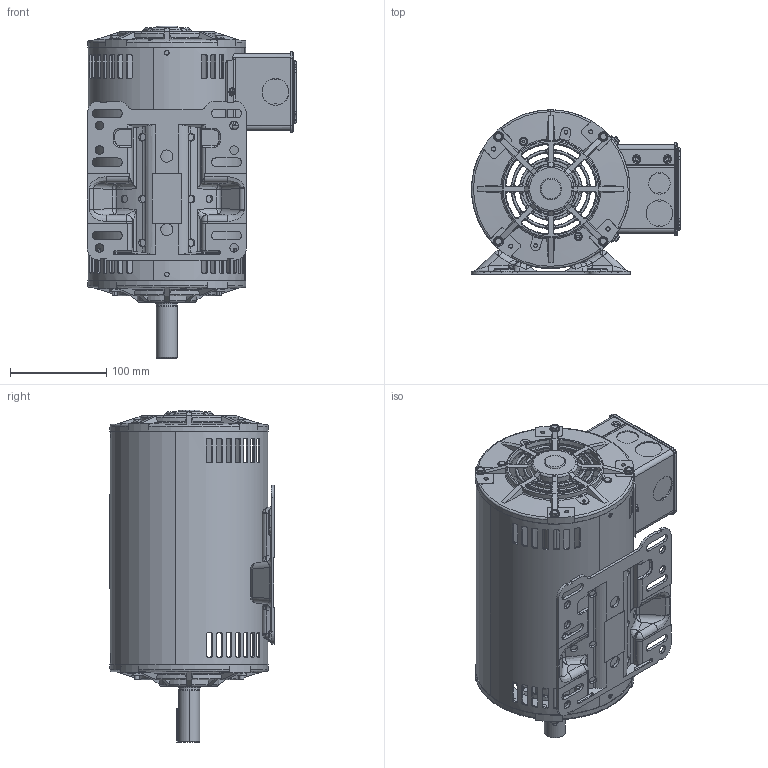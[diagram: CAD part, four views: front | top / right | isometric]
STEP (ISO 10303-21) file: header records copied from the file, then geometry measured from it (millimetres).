
FILE_DESCRIPTION (( 'STEP AP203' ), '1' );
FILE_NAME ('100085-956_RevE.STEP', '2018-01-10T07:22:54', ( '' ), ( '' ), 'SwSTEP 2.0', 'SolidWorks 2015', '' );
FILE_SCHEMA (( 'CONFIG_CONTROL_DESIGN' ));
Products named in the file (1): 100085-956_RevE
Bounding box: 217.4 x 170.59 x 344.66 mm (x, y, z)
Volume: 798804.9 mm3; surface area: 563703.6 mm2
Topology: 23 solids, 23 shells, 3026 faces, 8186 edges, 5194 vertices
Faces by surface type: plane 1210, cylinder 675, bspline 459, cone 404, torus 266, sphere 12
Entity records: 118304 total; most frequent: CARTESIAN_POINT 47567, ORIENTED_EDGE 16308, DIRECTION 12905, EDGE_CURVE 8154, VERTEX_POINT 5194, AXIS2_PLACEMENT_3D 4967, EDGE_LOOP 3288, FACE_OUTER_BOUND 3026
